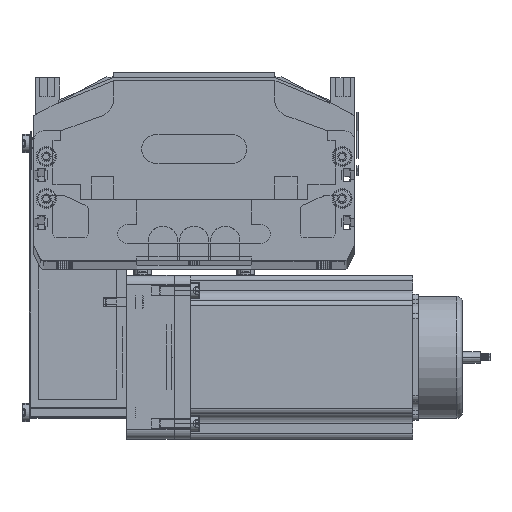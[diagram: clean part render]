
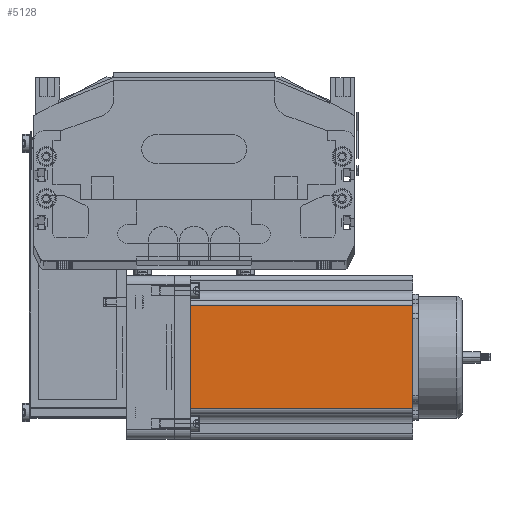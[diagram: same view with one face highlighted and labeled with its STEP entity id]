
A CAD part, top view. The second image highlights one B-rep face of the part: STEP entity #5128.
In plain terms, the highlighted planar face has unit normal (0, 0, 1) as drawn and (0, -1, 0) by its records, which use the part's own axes.
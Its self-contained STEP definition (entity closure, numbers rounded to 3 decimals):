
#5128 = ADVANCED_FACE ( 'NONE', ( #69142 ), #69022, .F. ) ;
#5352 = EDGE_LOOP ( 'NONE', ( #48710, #48680, #48468, #48467 ) ) ;
#48341 = EDGE_CURVE ( 'NONE', #48643, #48353, #56591, .T. ) ;
#48351 = EDGE_CURVE ( 'NONE', #48670, #48643, #56538, .T. ) ;
#48353 = VERTEX_POINT ( 'NONE', #56740 ) ;
#48355 = EDGE_CURVE ( 'NONE', #48642, #48353, #56495, .T. ) ;
#48467 = ORIENTED_EDGE ( 'NONE', *, *, #48644, .T. ) ;
#48468 = ORIENTED_EDGE ( 'NONE', *, *, #48355, .F. ) ;
#48642 = VERTEX_POINT ( 'NONE', #65282 ) ;
#48643 = VERTEX_POINT ( 'NONE', #65299 ) ;
#48644 = EDGE_CURVE ( 'NONE', #48642, #48670, #65130, .T. ) ;
#48670 = VERTEX_POINT ( 'NONE', #65628 ) ;
#48680 = ORIENTED_EDGE ( 'NONE', *, *, #48341, .T. ) ;
#48710 = ORIENTED_EDGE ( 'NONE', *, *, #48351, .T. ) ;
#49614 = CARTESIAN_POINT ( 'NONE',  ( 0., 0., 116.5 ) ) ;
#49986 = DIRECTION ( 'NONE',  ( 1., 0., 0. ) ) ;
#50210 = VECTOR ( 'NONE', #49986, 1000. ) ;
#56495 = LINE ( 'NONE', #49614, #50210 ) ;
#56534 = DIRECTION ( 'NONE',  ( 1., 0., 0. ) ) ;
#56535 = VECTOR ( 'NONE', #56534, 1000. ) ;
#56536 = CARTESIAN_POINT ( 'NONE',  ( 0., 0., 0. ) ) ;
#56538 = LINE ( 'NONE', #56536, #56535 ) ;
#56570 = DIRECTION ( 'NONE',  ( 0., 0., 1. ) ) ;
#56571 = VECTOR ( 'NONE', #56570, 1000. ) ;
#56591 = LINE ( 'NONE', #56856, #56571 ) ;
#56740 = CARTESIAN_POINT ( 'NONE',  ( 69.74, 0., 116.5 ) ) ;
#56856 = CARTESIAN_POINT ( 'NONE',  ( 69.74, 0., 116.5 ) ) ;
#65129 = CARTESIAN_POINT ( 'NONE',  ( 16.16, 0., 116.5 ) ) ;
#65130 = LINE ( 'NONE', #65129, #65417 ) ;
#65282 = CARTESIAN_POINT ( 'NONE',  ( 16.16, 0., 116.5 ) ) ;
#65299 = CARTESIAN_POINT ( 'NONE',  ( 69.74, 0., 0. ) ) ;
#65416 = DIRECTION ( 'NONE',  ( 0., 0., -1. ) ) ;
#65417 = VECTOR ( 'NONE', #65416, 1000. ) ;
#65628 = CARTESIAN_POINT ( 'NONE',  ( 16.16, 0., 0. ) ) ;
#69007 = DIRECTION ( 'NONE',  ( 0., 0., 1. ) ) ;
#69009 = DIRECTION ( 'NONE',  ( 0., 1., 0. ) ) ;
#69010 = CARTESIAN_POINT ( 'NONE',  ( 0., 0., 116.5 ) ) ;
#69022 = PLANE ( 'NONE',  #69026 ) ;
#69026 = AXIS2_PLACEMENT_3D ( 'NONE', #69010, #69009, #69007 ) ;
#69142 = FACE_OUTER_BOUND ( 'NONE', #5352, .T. ) ;
